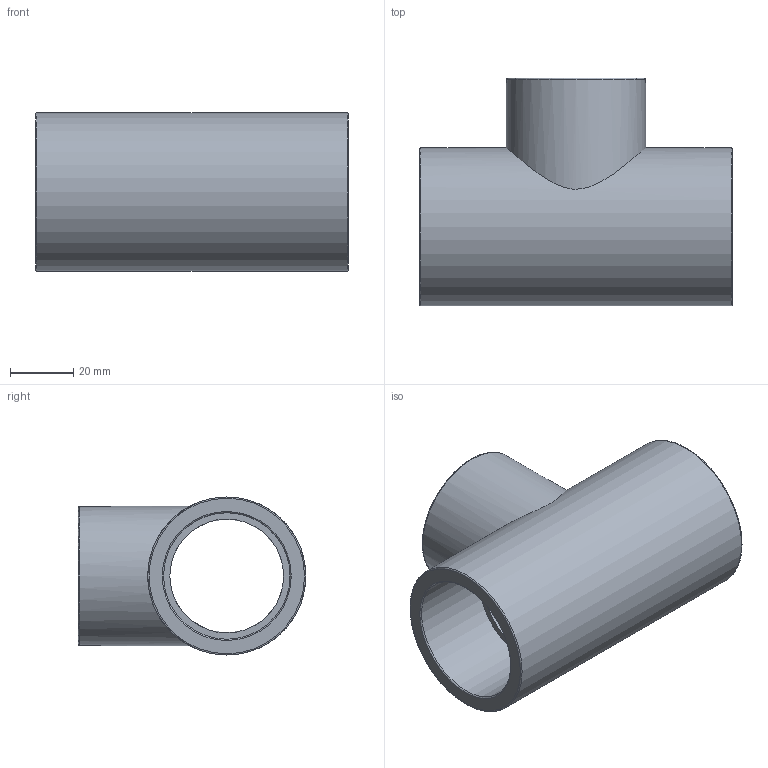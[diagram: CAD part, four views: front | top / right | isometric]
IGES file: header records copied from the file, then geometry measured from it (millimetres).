
Global section: file name: 051400040032.ipt; native system: Autodesk Inventor 2015; preprocessor: unknown; author: KIM; date: 20171207.165216; units: millimetre
Bounding box: 99 x 72 x 50 mm (x, y, z)
Volume: 95505.6 mm3; surface area: 34570.8 mm2
Topology: 1 solids, 1 shells, 19 faces, 58 edges, 44 vertices
Faces by surface type: revolution 11, plane 6, cylinder 2
Full cylindrical faces by diameter (mm): 44 x1, 50 x1
